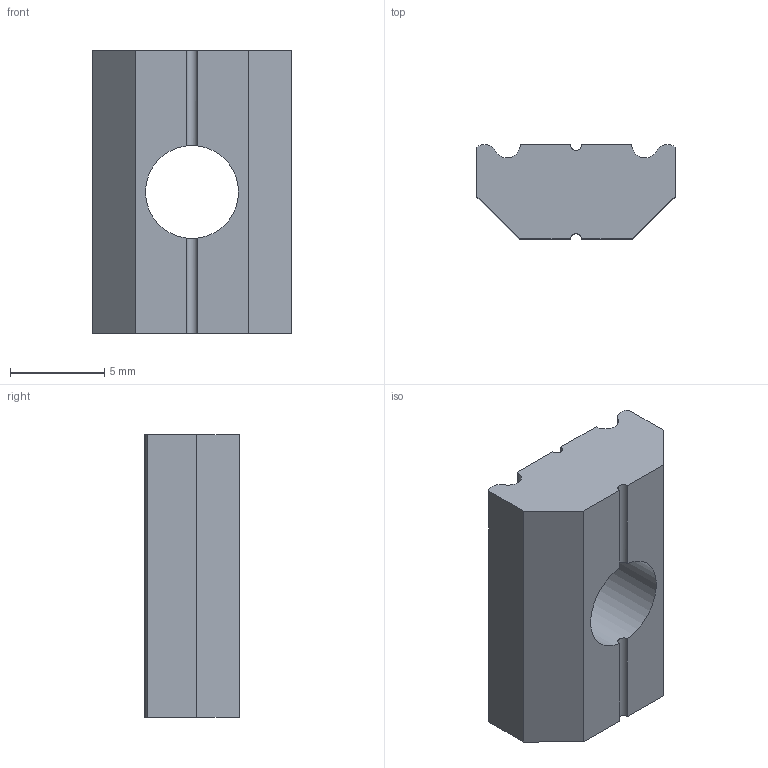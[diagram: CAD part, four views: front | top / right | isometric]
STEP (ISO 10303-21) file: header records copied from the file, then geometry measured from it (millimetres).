
FILE_DESCRIPTION(/* description */ ('X Channel Nut M6 Thread'),/* implementation_level */ '2;1');
FILE_NAME(/* name */ 'CN-6.STEP',/* time_stamp */ '2026-02-10T14:15:44-05:00',/* author */ ('Design2'),/* organization */ ('CCS Design LLC'),/* preprocessor_version */ 'ST-DEVELOPER v20',/* originating_system */ 'Autodesk Inventor 2025',/* authorisation */ '');
FILE_SCHEMA (('AUTOMOTIVE_DESIGN { 1 0 10303 214 3 1 1 }'));
Length unit declared in the file: inch
Products named in the file (1): CN-6
Bounding box: 10.5 x 5.01 x 15 mm (x, y, z)
Volume: 588.9 mm3; surface area: 579.1 mm2
Topology: 1 solids, 1 shells, 19 faces, 57 edges, 38 vertices
Faces by surface type: plane 10, cylinder 9
Full cylindrical faces by diameter (mm): 4.928 x1
Entity records: 758 total; most frequent: CARTESIAN_POINT 183, ORIENTED_EDGE 114, DIRECTION 111, EDGE_CURVE 57, VERTEX_POINT 38, AXIS2_PLACEMENT_3D 38, LINE 35, VECTOR 35
